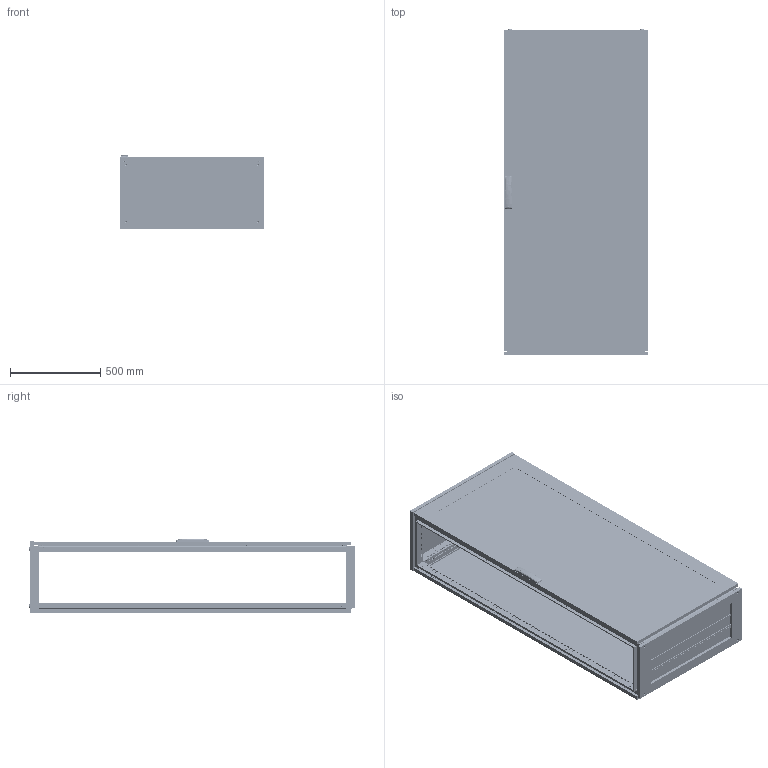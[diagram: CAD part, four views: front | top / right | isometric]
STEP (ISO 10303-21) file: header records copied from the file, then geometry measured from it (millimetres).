
FILE_DESCRIPTION (( 'STEP AP203' ), '1' );
FILE_NAME ('R5CQEN1884AX.STEP', '2025-05-07T11:58:49', ( '' ), ( '' ), 'SwSTEP 2.0', 'SolidWorks 2022', '' );
FILE_SCHEMA (( 'CONFIG_CONTROL_DESIGN' ));
Length unit declared in the file: millimetre
Products named in the file (65): M6 MGR-MKO-0625 simple_Thread; RB.2702.00.00.0 simple; TPA.08.0139.00.03.0; R5NCRE-Assem simple_R5NCRE1880; RB.0528.00.01.0 simple_-04; RB.2456.00.00.0 simple; M6x10 DIN 7500 M Torx cl.5.8 Zinc_straight; RB.2685.00.00.0 simple; RB.0562.01.01.0 simple_-13; RB.2499.00.00.0 СБ simple_-18; RB.2499.01.00.0 СБ simple_-17; PF 5x10 KTB simple_800x400; RB.0528.04.00.0 СБ simple; RB.0528.04.01.0 simple; RB.0562.00.00.0 СБ simple_-13; R5NKMN - Assem simple_R5NKMN18 (800х400); M6x10 DIN 7500 E HX cl.5.8 Zinc_straight; RB.1728.00.00.0 simple_-02; RB.2969.00.00.0 СБ simple; TPA.08.0139.00.01.0 simple; R5CQEN1884AX; Pressing stud FH-M6-12_M6x12mm; RB.2357.00.00.0 simple_-05; TPA.08.0084.00.00.0 simple; RB.2172.00.00.1 simple; RB.2686.00.00.0 simple; 4.8x13 DIN 7981 PH Zinc_straight; RB.0562.01.00.0 СБ simple_-13; RB.1867.01.00.0 СБ simple_-27; 4,0x16 F Torx Zinc (ART 88200)_thread; Glue CPTE simple_1800x0800; R5NKTB - Assem simple_H=1800 R5NKTB84; RB.1633.00.01.0 simple_-03; RB.2680.00.01.0 simple; Pin 4x16 DIN 7 AISI 303 (A1) simple; ATOS Traction guide ILY03.35; M6x10 DIN 912 HX cl.8,8 Zinc_straight; RB.2696.00.00.0 simple; RB.2052.00.00.0 СБ simple_-18; 7 DIN 6799 Zinc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
Assembly tree (173 placements, depth 5):
  R5CQEN1884AX
    R5NCPTE - Assem simple_R5NCPTE1880
      RB.0562.00.00.0 СБ simple_-13
        RB.0562.01.00.0 СБ simple_-13
          RB.0562.01.01.0 simple_-13
          М6х12 A5100231_straight  x7
          RB.2702.00.00.0 simple  x4
          PF 7,5x15 CPE simple_1800x0800
          Glass CPTE_1800x0800
          Glue CPTE simple_1800x0800
        Square cap 20x20 simple  x2
        M6x15 Erickson cl.4,8 Zinc  x2
        RB.0528.00.01.0 simple_-04  x2
        ATOS Traction guide ILY03.35  x4
        RB.2357.00.00.0 simple_-05
        RB.2680.00.00.0 СБ simple
          TPA.08.0139.00.01.0 simple
          RB.2680.00.01.0 simple
          RB.2680.00.02.0 simple  x2
        TPA.08.0139.00.03.0  x2
        M6 DIN 985 cl.6,0 Zinc_straight  x4
        4,0x16 F Torx Zinc (ART 88200)_thread  x2
        RB.0528.04.00.0 СБ simple  x2
          RB.0528.04.01.0 simple
          Pressing stud FH-M6-12_M6x12mm
      M6x10 DIN 912 HX cl.8,8 Zinc_straight  x8
      4.8x13 DIN 7981 PH Zinc_straight
      7 DIN 6799 Zinc simple  x4
      RB.2968.00.00.0 simple  x4
      RB.2969.00.00.0 СБ simple  x4
        RB.2969.00.01.0 simple
        Pin 4x16 DIN 7 AISI 303 (A1) simple
        M6 MGR-MKO-0625 simple_Thread
      AC00C446-R
      RB.2696.00.00.0 simple  x4
      7 DIN 6799 Zinc  x4
    R5NCRE-Assem simple_R5NCRE1880
      RB.2052.00.00.0 СБ simple_-18
        RB.2052.01.00.0 СБ simple_-18
          RB.0054.01.01.0 simple_-18
          М6х12 A5100231_straight  x4
        PF 7x14 CRE simple_1800x0800
      RB.2172.00.00.1 simple  x8
      M6x10 DIN 7500 E HX cl.5.8 Zinc_straight  x8
      M6x10 DIN 7500 M Torx cl.5.8 Zinc_straight  x8
    R5NKMN - Assem simple_R5NKMN18 (800х400)
      RB.2528.00.00.0 simple_-04  x4
    R5NKTB - Assem simple_H=1800 R5NKTB84
      RB.2499.00.00.0 СБ simple_-18
        RB.2499.01.00.0 СБ simple_-17
          RB.1633.00.01.0 simple_-03  x2
          RB.1633.00.02.0 simple_default  x2
          PF 5x10 KTB simple_800x400
        RB.2457.00.00.0 СБ simple_-18
          RB.2455.00.00.0 simple_-03  x2
          RB.2456.00.00.0 simple  x2
          TPA.08.0084.00.00.0 simple  x2
          TPA.08.0083.00.00.0 simple  x2
          M8x12 AC00C476 cl.8,8 Zinc_stright  x4
        RB.1728.00.00.0 simple_-02  x3
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Bounding box: 800 x 1813.3 x 414.74 mm (x, y, z)
Volume: 15983320 mm3; surface area: 13491986 mm2
Topology: 176 solids, 192 shells, 21233 faces, 60059 edges, 39531 vertices
Faces by surface type: plane 11931, cylinder 7761, cone 704, bspline 435, torus 368, sphere 34
Entity records: 213533 total; most frequent: CARTESIAN_POINT 53519, ORIENTED_EDGE 31650, DIRECTION 30111, EDGE_CURVE 15851, VERTEX_POINT 10490, AXIS2_PLACEMENT_3D 10105, LINE 9901, VECTOR 9901
